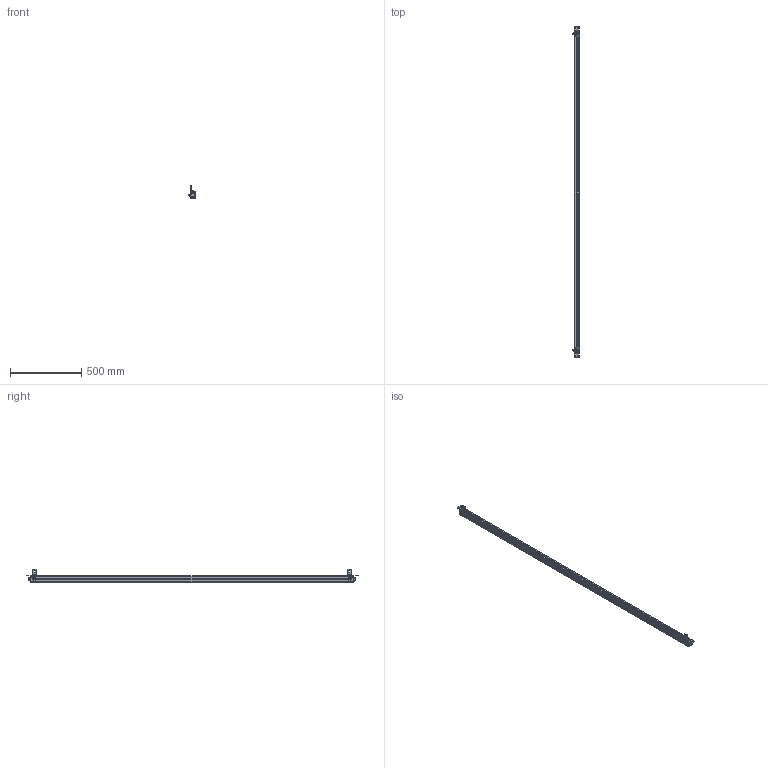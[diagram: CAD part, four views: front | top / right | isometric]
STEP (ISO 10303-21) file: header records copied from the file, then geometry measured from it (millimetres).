
FILE_DESCRIPTION((''),'2;1');
FILE_NAME('ESN--000_ASM','2021-08-11T16:44:33',('18720616900'),(''),'CREO PARAMETRIC BY PTC INC, 2019010','CREO PARAMETRIC BY PTC INC, 2019010','');
FILE_SCHEMA(('CONFIG_CONTROL_DESIGN'));
Length unit declared in the file: millimetre
Products named in the file (22): 00; 000; _0001; 4000; 4--0001; ESN_40001_ASM; L10001; M6-8--0001; M6-1--00; M6-1-00; M6-80001_ASM; L1--0001_ASM; _0002; 0005; ST-3-120001; H1--000; H1--0001_ASM; H1--0003_ASM; ESN--000_ASM
Assembly tree (34 placements, depth 4):
  ESN--000_ASM
    00
    000
    _0001
    000
    ESN_40001_ASM
      4000
      4--0001  x4
    L1--0001_ASM  x2
      L10001
      M6-80001_ASM
        M6-8--0001
        M6-1--00
        M6-1-00
        00
    _0002
    0005
    ST-3-120001  x8
    H1--0001_ASM
      H1--000
      M6-80001_ASM
        M6-8--0001
        M6-1--00
        M6-1-00
        00
    H1--0003_ASM
      H1--000
      M6-80001_ASM
        M6-8--0001
        M6-1--00
        M6-1-00
        00
Bounding box: 46.5 x 2327 x 94.95 mm (x, y, z)
Volume: 3385958.8 mm3; surface area: 665157.5 mm2
Topology: 39 solids, 39 shells, 1727 faces, 4555 edges, 2925 vertices
Faces by surface type: plane 541, cylinder 404, bspline 362, cone 291, torus 105, sphere 24
Entity records: 45714 total; most frequent: CARTESIAN_POINT 24222, ORIENTED_EDGE 4766, DIRECTION 3842, EDGE_CURVE 2383, VERTEX_POINT 1546, AXIS2_PLACEMENT_3D 1400, VECTOR 1042, LINE 1042
